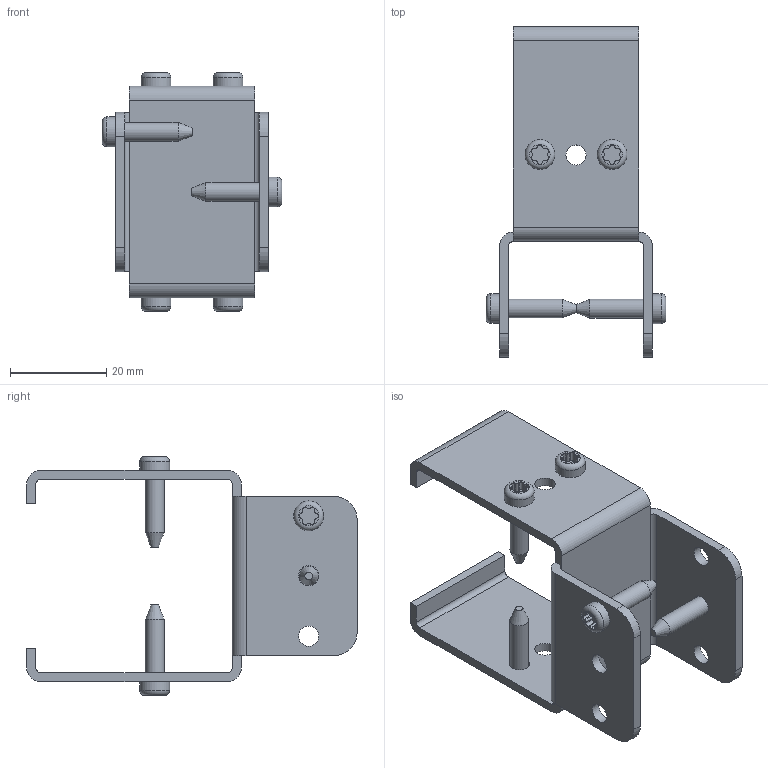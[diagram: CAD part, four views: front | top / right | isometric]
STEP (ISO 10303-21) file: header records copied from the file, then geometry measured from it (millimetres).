
FILE_DESCRIPTION(/* description */ ('STEP AP214'),/* implementation_level */ '2;1');
FILE_NAME(/* name */ '062AMD28MS01',/* time_stamp */ '2023-08-30T11:50:43+02:00',/* author */ ('License CC BY-ND 4.0'),/* organization */ ('CADENAS'),/* preprocessor_version */ 'ST-DEVELOPER v19.3',/* originating_system */ 'PARTsolutions',/* authorisation */ ' ');
FILE_SCHEMA (('AUTOMOTIVE_DESIGN {1 0 10303 214 3 1 1}'));
Length unit declared in the file: millimetre
Products named in the file (3): 062AMD28MS01; 062AMD28MS012; 062AMD28MS011
Assembly tree (7 placements, depth 2):
  062AMD28MS01
    062AMD28MS012  x6
    062AMD28MS011
Bounding box: 37.4 x 68.7 x 49.6 mm (x, y, z)
Volume: 11077.3 mm3; surface area: 13129.5 mm2
Topology: 7 solids, 7 shells, 246 faces, 650 edges, 430 vertices
Faces by surface type: plane 122, cylinder 112, torus 6, cone 6
Full cylindrical faces by diameter (mm): 3.9 x6, 4.2 x12, 6.2 x6
Entity records: 2783 total; most frequent: DIRECTION 488, CARTESIAN_POINT 458, ORIENTED_EDGE 428, EDGE_CURVE 214, AXIS2_PLACEMENT_3D 180, VERTEX_POINT 150, LINE 128, VECTOR 128
